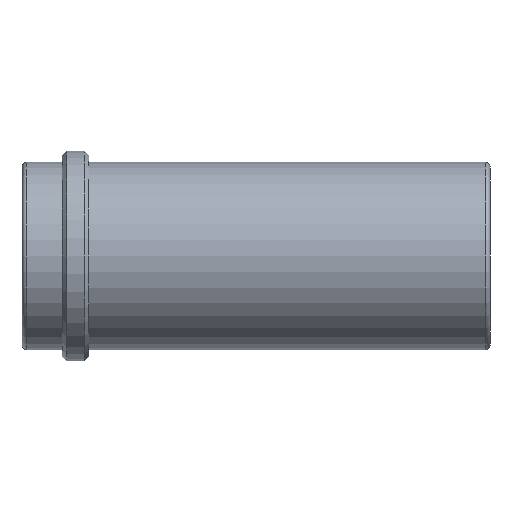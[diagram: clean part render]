
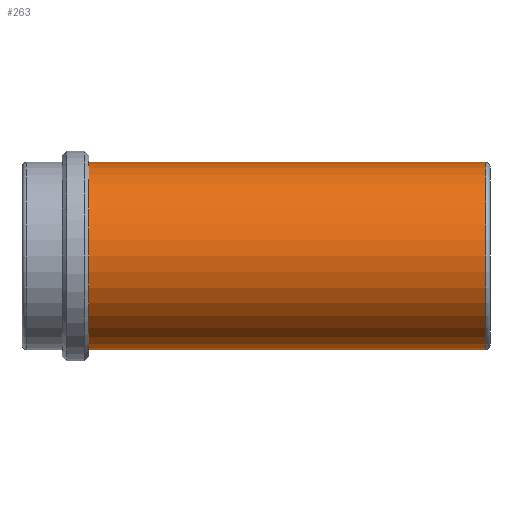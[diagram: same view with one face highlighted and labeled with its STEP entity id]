
A CAD part, front view. The second image highlights one B-rep face of the part: STEP entity #263.
In plain terms, the highlighted cylindrical face has radius 21 mm (diameter 42 mm), a partial arc.
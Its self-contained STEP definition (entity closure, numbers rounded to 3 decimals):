
#2 = ORIENTED_EDGE ( 'NONE', *, *, #143, .T. ) ;
#6 = DIRECTION ( 'NONE',  ( -1., 0., 0. ) ) ;
#12 = DIRECTION ( 'NONE',  ( -1., 0., 0. ) ) ;
#30 = CARTESIAN_POINT ( 'NONE',  ( 15., 0., 0. ) ) ;
#56 = EDGE_CURVE ( 'NONE', #226, #506, #503, .T. ) ;
#111 = VERTEX_POINT ( 'NONE', #322 ) ;
#113 = ORIENTED_EDGE ( 'NONE', *, *, #56, .F. ) ;
#133 = EDGE_CURVE ( 'NONE', #535, #226, #317, .T. ) ;
#143 = EDGE_CURVE ( 'NONE', #111, #506, #401, .T. ) ;
#145 = CARTESIAN_POINT ( 'NONE',  ( 104., 0., -21. ) ) ;
#147 = CARTESIAN_POINT ( 'NONE',  ( 15., 0., 21. ) ) ;
#150 = DIRECTION ( 'NONE',  ( 0., 0., 1. ) ) ;
#166 = DIRECTION ( 'NONE',  ( -1., 0., 0. ) ) ;
#175 = AXIS2_PLACEMENT_3D ( 'NONE', #30, #166, #150 ) ;
#176 = DIRECTION ( 'NONE',  ( 0., 0., 1. ) ) ;
#178 = CARTESIAN_POINT ( 'NONE',  ( 0., 0., 0. ) ) ;
#185 = CIRCLE ( 'NONE', #467, 21. ) ;
#226 = VERTEX_POINT ( 'NONE', #283 ) ;
#246 = AXIS2_PLACEMENT_3D ( 'NONE', #178, #328, #176 ) ;
#263 = ADVANCED_FACE ( 'NONE', ( #326 ), #486, .T. ) ;
#266 = VECTOR ( 'NONE', #391, 1000. ) ;
#283 = CARTESIAN_POINT ( 'NONE',  ( 15., 0., -21. ) ) ;
#310 = VECTOR ( 'NONE', #6, 1000. ) ;
#317 = LINE ( 'NONE', #329, #266 ) ;
#322 = CARTESIAN_POINT ( 'NONE',  ( 104., 0., 21. ) ) ;
#326 = FACE_OUTER_BOUND ( 'NONE', #375, .T. ) ;
#328 = DIRECTION ( 'NONE',  ( -1., 0., 0. ) ) ;
#329 = CARTESIAN_POINT ( 'NONE',  ( 0., 0., -21. ) ) ;
#344 = CARTESIAN_POINT ( 'NONE',  ( 104., 0., 0. ) ) ;
#375 = EDGE_LOOP ( 'NONE', ( #555, #519, #2, #113 ) ) ;
#391 = DIRECTION ( 'NONE',  ( -1., 0., 0. ) ) ;
#401 = LINE ( 'NONE', #484, #310 ) ;
#411 = DIRECTION ( 'NONE',  ( 0., 0., 1. ) ) ;
#467 = AXIS2_PLACEMENT_3D ( 'NONE', #344, #12, #411 ) ;
#478 = EDGE_CURVE ( 'NONE', #535, #111, #185, .T. ) ;
#484 = CARTESIAN_POINT ( 'NONE',  ( 0., 0., 21. ) ) ;
#486 = CYLINDRICAL_SURFACE ( 'NONE', #246, 21. ) ;
#503 = CIRCLE ( 'NONE', #175, 21. ) ;
#506 = VERTEX_POINT ( 'NONE', #147 ) ;
#519 = ORIENTED_EDGE ( 'NONE', *, *, #478, .T. ) ;
#535 = VERTEX_POINT ( 'NONE', #145 ) ;
#555 = ORIENTED_EDGE ( 'NONE', *, *, #133, .F. ) ;
